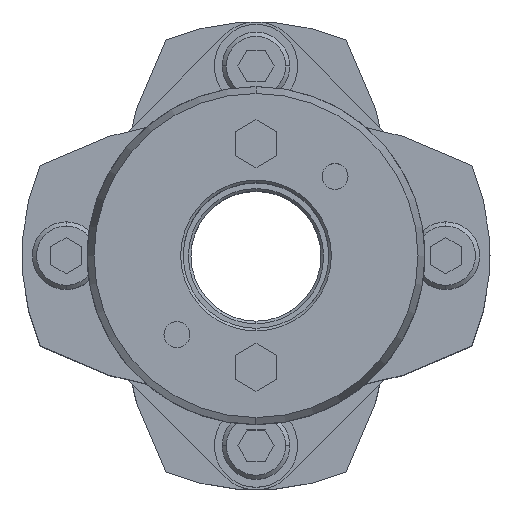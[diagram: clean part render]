
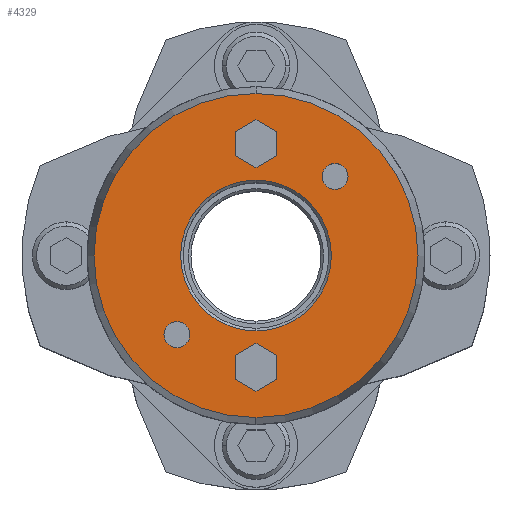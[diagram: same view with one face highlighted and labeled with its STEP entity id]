
A CAD part, top view. The second image highlights one B-rep face of the part: STEP entity #4329.
In plain terms, the highlighted planar face has unit normal (0, 0, 1).
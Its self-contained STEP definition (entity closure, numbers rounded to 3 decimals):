
#2291=CARTESIAN_POINT('',(0.,14.5,52.0));
#2292=VERTEX_POINT('',#2291);
#2308=CARTESIAN_POINT('',(0.,-14.5,52.0));
#2309=VERTEX_POINT('',#2308);
#2316=CARTESIAN_POINT('',(0.,0.,52.0));
#2317=DIRECTION('',(0.0,0.0,1.0));
#2318=DIRECTION('',(0.0,1.0,0.0));
#2319=AXIS2_PLACEMENT_3D('',#2316,#2317,#2318);
#2320=CIRCLE('',#2319,14.5);
#2321=EDGE_CURVE('',#2309,#2292,#2320,.T.);
#2437=CARTESIAN_POINT('',(0.,-31.16,52.0));
#2438=VERTEX_POINT('',#2437);
#2447=CARTESIAN_POINT('',(0.,31.16,52.0));
#2448=VERTEX_POINT('',#2447);
#2449=CARTESIAN_POINT('',(0.,0.,52.0));
#2450=DIRECTION('',(0.0,0.0,-1.0));
#2451=DIRECTION('',(0.0,-1.0,0.0));
#2452=AXIS2_PLACEMENT_3D('',#2449,#2450,#2451);
#2453=CIRCLE('',#2452,31.16);
#2454=EDGE_CURVE('',#2438,#2448,#2453,.T.);
#2771=CARTESIAN_POINT('',(15.203,17.703,52.0));
#2772=VERTEX_POINT('',#2771);
#2788=CARTESIAN_POINT('',(15.203,12.703,52.0));
#2789=VERTEX_POINT('',#2788);
#2796=CARTESIAN_POINT('',(15.203,15.203,52.0));
#2797=DIRECTION('',(0.0,0.0,-1.0));
#2798=DIRECTION('',(0.0,1.0,0.0));
#2799=AXIS2_PLACEMENT_3D('',#2796,#2797,#2798);
#2800=CIRCLE('',#2799,2.5);
#2801=EDGE_CURVE('',#2772,#2789,#2800,.T.);
#2813=CARTESIAN_POINT('',(-15.203,-12.703,52.0));
#2814=VERTEX_POINT('',#2813);
#2830=CARTESIAN_POINT('',(-15.203,-17.703,52.0));
#2831=VERTEX_POINT('',#2830);
#2838=CARTESIAN_POINT('',(-15.203,-15.203,52.0));
#2839=DIRECTION('',(0.0,0.0,-1.0));
#2840=DIRECTION('',(0.0,1.0,0.0));
#2841=AXIS2_PLACEMENT_3D('',#2838,#2839,#2840);
#2842=CIRCLE('',#2841,2.5);
#2843=EDGE_CURVE('',#2814,#2831,#2842,.T.);
#2935=CARTESIAN_POINT('',(0.,-16.881,52.0));
#2936=VERTEX_POINT('',#2935);
#2943=CARTESIAN_POINT('',(-4.,-19.191,52.0));
#2944=VERTEX_POINT('',#2943);
#2945=CARTESIAN_POINT('',(-4.,-19.191,52.0));
#2946=DIRECTION('',(0.866,0.5,0.0));
#2947=VECTOR('',#2946,4.619);
#2948=LINE('',#2945,#2947);
#2949=EDGE_CURVE('',#2944,#2936,#2948,.T.);
#2973=CARTESIAN_POINT('',(4.,-19.191,52.0));
#2974=VERTEX_POINT('',#2973);
#2981=CARTESIAN_POINT('',(0.,-16.881,52.0));
#2982=DIRECTION('',(0.866,-0.5,0.0));
#2983=VECTOR('',#2982,4.619);
#2984=LINE('',#2981,#2983);
#2985=EDGE_CURVE('',#2936,#2974,#2984,.T.);
#3004=CARTESIAN_POINT('',(4.,-23.809,52.0));
#3005=VERTEX_POINT('',#3004);
#3012=CARTESIAN_POINT('',(4.,-19.191,52.0));
#3013=DIRECTION('',(0.0,-1.0,0.0));
#3014=VECTOR('',#3013,4.619);
#3015=LINE('',#3012,#3014);
#3016=EDGE_CURVE('',#2974,#3005,#3015,.T.);
#3035=CARTESIAN_POINT('',(0.,-26.119,52.0));
#3036=VERTEX_POINT('',#3035);
#3043=CARTESIAN_POINT('',(4.,-23.809,52.0));
#3044=DIRECTION('',(-0.866,-0.5,0.0));
#3045=VECTOR('',#3044,4.619);
#3046=LINE('',#3043,#3045);
#3047=EDGE_CURVE('',#3005,#3036,#3046,.T.);
#3066=CARTESIAN_POINT('',(-4.,-23.809,52.0));
#3067=VERTEX_POINT('',#3066);
#3074=CARTESIAN_POINT('',(0.,-26.119,52.0));
#3075=DIRECTION('',(-0.866,0.5,0.0));
#3076=VECTOR('',#3075,4.619);
#3077=LINE('',#3074,#3076);
#3078=EDGE_CURVE('',#3036,#3067,#3077,.T.);
#3096=CARTESIAN_POINT('',(-4.,-23.809,52.0));
#3097=DIRECTION('',(0.0,1.0,0.0));
#3098=VECTOR('',#3097,4.619);
#3099=LINE('',#3096,#3098);
#3100=EDGE_CURVE('',#3067,#2944,#3099,.T.);
#3135=CARTESIAN_POINT('',(0.,26.119,52.0));
#3136=VERTEX_POINT('',#3135);
#3143=CARTESIAN_POINT('',(-4.,23.809,52.0));
#3144=VERTEX_POINT('',#3143);
#3145=CARTESIAN_POINT('',(-4.,23.809,52.0));
#3146=DIRECTION('',(0.866,0.5,0.0));
#3147=VECTOR('',#3146,4.619);
#3148=LINE('',#3145,#3147);
#3149=EDGE_CURVE('',#3144,#3136,#3148,.T.);
#3173=CARTESIAN_POINT('',(4.,23.809,52.0));
#3174=VERTEX_POINT('',#3173);
#3181=CARTESIAN_POINT('',(0.,26.119,52.0));
#3182=DIRECTION('',(0.866,-0.5,0.0));
#3183=VECTOR('',#3182,4.619);
#3184=LINE('',#3181,#3183);
#3185=EDGE_CURVE('',#3136,#3174,#3184,.T.);
#3204=CARTESIAN_POINT('',(4.,19.191,52.0));
#3205=VERTEX_POINT('',#3204);
#3212=CARTESIAN_POINT('',(4.,23.809,52.0));
#3213=DIRECTION('',(0.0,-1.0,0.0));
#3214=VECTOR('',#3213,4.619);
#3215=LINE('',#3212,#3214);
#3216=EDGE_CURVE('',#3174,#3205,#3215,.T.);
#3235=CARTESIAN_POINT('',(0.,16.881,52.0));
#3236=VERTEX_POINT('',#3235);
#3243=CARTESIAN_POINT('',(4.,19.191,52.0));
#3244=DIRECTION('',(-0.866,-0.5,0.0));
#3245=VECTOR('',#3244,4.619);
#3246=LINE('',#3243,#3245);
#3247=EDGE_CURVE('',#3205,#3236,#3246,.T.);
#3266=CARTESIAN_POINT('',(-4.,19.191,52.0));
#3267=VERTEX_POINT('',#3266);
#3274=CARTESIAN_POINT('',(0.,16.881,52.0));
#3275=DIRECTION('',(-0.866,0.5,0.0));
#3276=VECTOR('',#3275,4.619);
#3277=LINE('',#3274,#3276);
#3278=EDGE_CURVE('',#3236,#3267,#3277,.T.);
#3296=CARTESIAN_POINT('',(-4.,19.191,52.0));
#3297=DIRECTION('',(0.0,1.0,0.0));
#3298=VECTOR('',#3297,4.619);
#3299=LINE('',#3296,#3298);
#3300=EDGE_CURVE('',#3267,#3144,#3299,.T.);
#3326=CARTESIAN_POINT('',(-15.203,-15.203,52.0));
#3327=DIRECTION('',(0.0,0.0,-1.0));
#3328=DIRECTION('',(0.0,1.0,0.0));
#3329=AXIS2_PLACEMENT_3D('',#3326,#3327,#3328);
#3330=CIRCLE('',#3329,2.5);
#3331=EDGE_CURVE('',#2831,#2814,#3330,.T.);
#3360=CARTESIAN_POINT('',(15.203,15.203,52.0));
#3361=DIRECTION('',(0.0,0.0,-1.0));
#3362=DIRECTION('',(0.0,1.0,0.0));
#3363=AXIS2_PLACEMENT_3D('',#3360,#3361,#3362);
#3364=CIRCLE('',#3363,2.5);
#3365=EDGE_CURVE('',#2789,#2772,#3364,.T.);
#4276=CARTESIAN_POINT('',(0.,0.,52.0));
#4277=DIRECTION('',(0.0,0.0,-1.0));
#4278=DIRECTION('',(0.0,-1.0,0.0));
#4279=AXIS2_PLACEMENT_3D('',#4276,#4277,#4278);
#4280=CIRCLE('',#4279,31.16);
#4281=EDGE_CURVE('',#2448,#2438,#4280,.T.);
#4286=CARTESIAN_POINT('',(0.,2.682,52.0));
#4287=DIRECTION('',(0.0,0.0,1.0));
#4288=DIRECTION('',(0.0,1.0,0.0));
#4289=AXIS2_PLACEMENT_3D('',#4286,#4287,#4288);
#4290=PLANE('',#4289);
#4291=ORIENTED_EDGE('',*,*,#4281,.F.);
#4292=ORIENTED_EDGE('',*,*,#2454,.F.);
#4293=EDGE_LOOP('',(#4291,#4292));
#4294=FACE_OUTER_BOUND('',#4293,.T.);
#4295=ORIENTED_EDGE('',*,*,#2949,.T.);
#4296=ORIENTED_EDGE('',*,*,#2985,.T.);
#4297=ORIENTED_EDGE('',*,*,#3016,.T.);
#4298=ORIENTED_EDGE('',*,*,#3047,.T.);
#4299=ORIENTED_EDGE('',*,*,#3078,.T.);
#4300=ORIENTED_EDGE('',*,*,#3100,.T.);
#4301=EDGE_LOOP('',(#4295,#4296,#4297,#4298,#4299,#4300));
#4302=FACE_BOUND('',#4301,.T.);
#4303=ORIENTED_EDGE('',*,*,#3149,.T.);
#4304=ORIENTED_EDGE('',*,*,#3185,.T.);
#4305=ORIENTED_EDGE('',*,*,#3216,.T.);
#4306=ORIENTED_EDGE('',*,*,#3247,.T.);
#4307=ORIENTED_EDGE('',*,*,#3278,.T.);
#4308=ORIENTED_EDGE('',*,*,#3300,.T.);
#4309=EDGE_LOOP('',(#4303,#4304,#4305,#4306,#4307,#4308));
#4310=FACE_BOUND('',#4309,.T.);
#4311=ORIENTED_EDGE('',*,*,#2843,.T.);
#4312=ORIENTED_EDGE('',*,*,#3331,.T.);
#4313=EDGE_LOOP('',(#4311,#4312));
#4314=FACE_BOUND('',#4313,.T.);
#4315=ORIENTED_EDGE('',*,*,#2801,.T.);
#4316=ORIENTED_EDGE('',*,*,#3365,.T.);
#4317=EDGE_LOOP('',(#4315,#4316));
#4318=FACE_BOUND('',#4317,.T.);
#4319=ORIENTED_EDGE('',*,*,#2321,.F.);
#4320=CARTESIAN_POINT('',(0.,0.,52.0));
#4321=DIRECTION('',(0.0,0.0,1.0));
#4322=DIRECTION('',(0.0,1.0,0.0));
#4323=AXIS2_PLACEMENT_3D('',#4320,#4321,#4322);
#4324=CIRCLE('',#4323,14.5);
#4325=EDGE_CURVE('',#2292,#2309,#4324,.T.);
#4326=ORIENTED_EDGE('',*,*,#4325,.F.);
#4327=EDGE_LOOP('',(#4319,#4326));
#4328=FACE_BOUND('',#4327,.T.);
#4329=ADVANCED_FACE('',(#4294,#4302,#4310,#4314,#4318,#4328),#4290,.T.);
